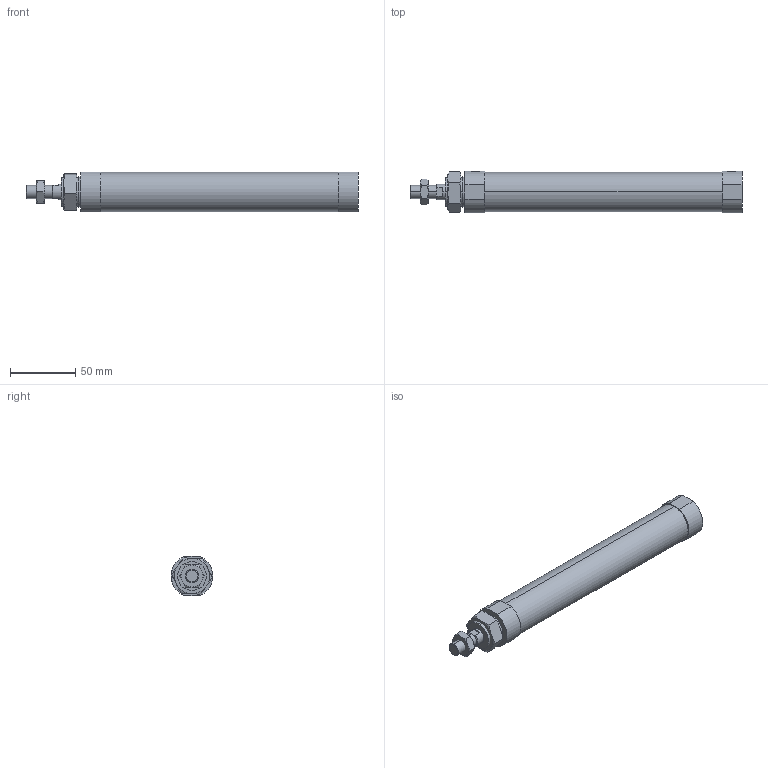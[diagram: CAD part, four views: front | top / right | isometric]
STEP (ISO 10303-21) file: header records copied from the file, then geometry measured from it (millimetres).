
FILE_DESCRIPTION (( 'STEP AP203' ), '1' );
FILE_NAME ('JGND2-25-150-N.STEP', '2016-08-04T02:42:45', ( '' ), ( '' ), 'SwSTEP 2.0', 'SolidWorks 2014', '' );
FILE_SCHEMA (( 'CONFIG_CONTROL_DESIGN' ));
Length unit declared in the file: millimetre
Products named in the file (4): J#2-25-150(P); JGND2-25-150-N
Assembly tree (3 placements, depth 2):
  JGND2-25-150-N
    J#2-25-150(P)
    (unnamed)
    (unnamed)
Bounding box: 254 x 32 x 30 mm (x, y, z)
Volume: 161908.8 mm3; surface area: 28058.7 mm2
Topology: 3 solids, 3 shells, 89 faces, 198 edges, 116 vertices
Faces by surface type: plane 35, torus 24, cylinder 22, cone 8
Entity records: 3150 total; most frequent: CARTESIAN_POINT 845, DIRECTION 400, ORIENTED_EDGE 388, EDGE_CURVE 194, AXIS2_PLACEMENT_3D 167, VERTEX_POINT 116, EDGE_LOOP 98, ADVANCED_FACE 89
